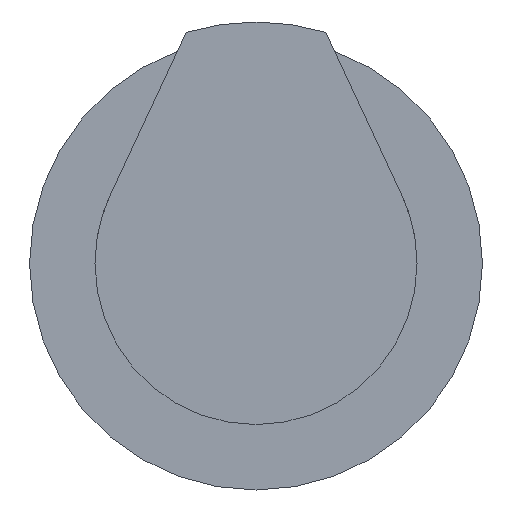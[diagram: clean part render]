
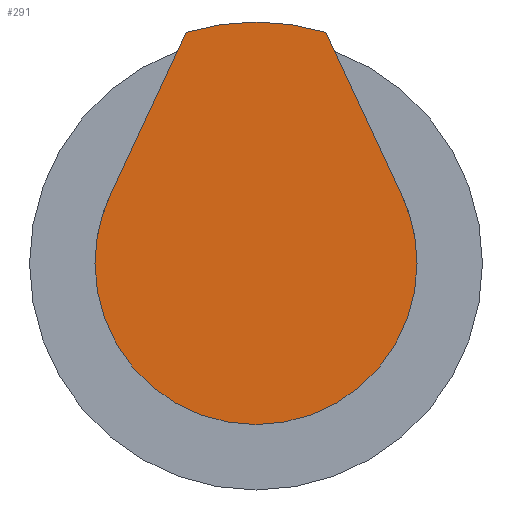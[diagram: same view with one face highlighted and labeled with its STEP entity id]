
A CAD part, front view. The second image highlights one B-rep face of the part: STEP entity #291.
In plain terms, the highlighted planar face has unit normal (0, -1, 0).
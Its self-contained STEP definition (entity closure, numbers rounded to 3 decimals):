
#58=CARTESIAN_POINT('',(0.,-19.5,0.));
#59=DIRECTION('',(0.,-1.,0.));
#60=DIRECTION('',(-0.906,0.,0.423));
#61=AXIS2_PLACEMENT_3D('',#58,#59,#60);
#63=CARTESIAN_POINT('',(0.,-19.5,0.));
#64=DIRECTION('',(0.,-1.,0.));
#65=DIRECTION('',(1.,0.,0.));
#66=AXIS2_PLACEMENT_3D('',#63,#64,#65);
#85=DIRECTION('',(-0.423,0.,-0.906));
#86=VECTOR('',#85,1.789);
#87=CARTESIAN_POINT('',(-0.694,-19.5,2.297));
#88=LINE('',#87,#86);
#89=CARTESIAN_POINT('',(0.,-19.5,0.));
#90=DIRECTION('',(0.,-1.,0.));
#91=DIRECTION('',(0.289,0.,0.957));
#92=AXIS2_PLACEMENT_3D('',#89,#90,#91);
#94=DIRECTION('',(-0.423,0.,0.906));
#95=VECTOR('',#94,1.789);
#96=CARTESIAN_POINT('',(1.45,-19.5,0.676));
#97=LINE('',#96,#95);
#114=CARTESIAN_POINT('',(0.,-19.5,0.));
#115=DIRECTION('',(0.,1.,0.));
#116=DIRECTION('',(1.,0.,0.));
#117=AXIS2_PLACEMENT_3D('',#114,#115,#116);
#123=CARTESIAN_POINT('',(1.6,-19.5,0.));
#125=VERTEX_POINT('',#123);
#131=CARTESIAN_POINT('',(-1.6,-19.5,0.));
#133=VERTEX_POINT('',#131);
#141=CARTESIAN_POINT('',(-1.45,-19.5,0.676));
#142=VERTEX_POINT('',#141);
#143=CARTESIAN_POINT('',(1.45,-19.5,0.676));
#144=VERTEX_POINT('',#143);
#149=CARTESIAN_POINT('',(-0.694,-19.5,2.297));
#150=VERTEX_POINT('',#149);
#151=CARTESIAN_POINT('',(0.694,-19.5,2.297));
#152=VERTEX_POINT('',#151);
#275=CARTESIAN_POINT('',(0.,-19.5,0.));
#276=DIRECTION('',(0.,-1.,0.));
#277=DIRECTION('',(-1.,0.,0.));
#278=AXIS2_PLACEMENT_3D('',#275,#276,#277);
#279=PLANE('',#278);
#280=ORIENTED_EDGE('',*,*,#232,.F.);
#282=ORIENTED_EDGE('',*,*,#281,.F.);
#284=ORIENTED_EDGE('',*,*,#283,.F.);
#285=ORIENTED_EDGE('',*,*,#267,.F.);
#286=ORIENTED_EDGE('',*,*,#239,.F.);
#288=ORIENTED_EDGE('',*,*,#287,.T.);
#289=EDGE_LOOP('',(#280,#282,#284,#285,#286,#288));
#290=FACE_OUTER_BOUND('',#289,.F.);
#291=ADVANCED_FACE('',(#290),#279,.T.);
#62=CIRCLE('',#61,1.6);
#67=CIRCLE('',#66,1.6);
#93=CIRCLE('',#92,2.4);
#118=CIRCLE('',#117,1.6);
#232=EDGE_CURVE('',#142,#133,#62,.T.);
#239=EDGE_CURVE('',#125,#144,#67,.T.);
#267=EDGE_CURVE('',#144,#152,#97,.T.);
#281=EDGE_CURVE('',#150,#142,#88,.T.);
#283=EDGE_CURVE('',#152,#150,#93,.T.);
#287=EDGE_CURVE('',#125,#133,#118,.T.);
